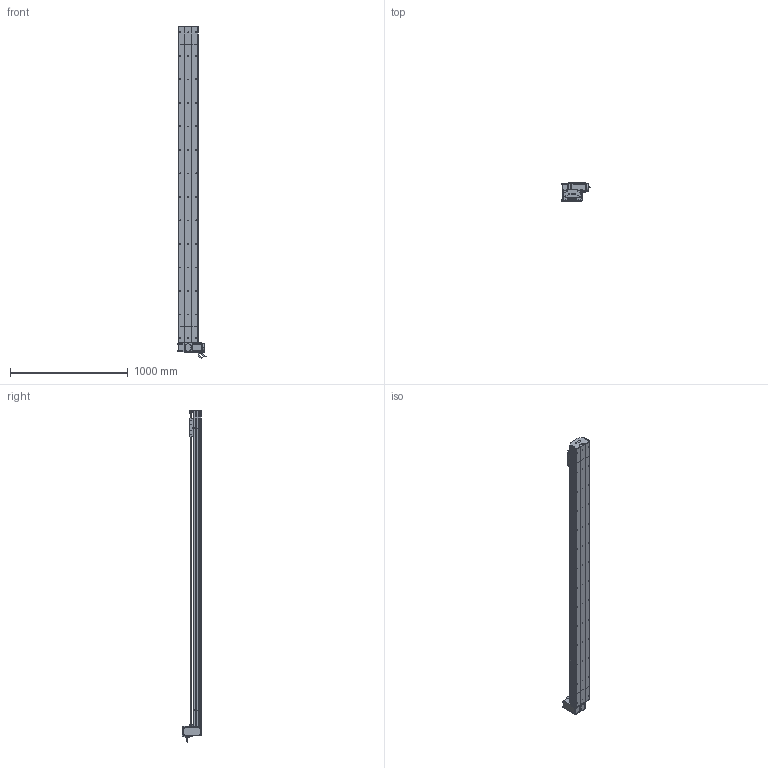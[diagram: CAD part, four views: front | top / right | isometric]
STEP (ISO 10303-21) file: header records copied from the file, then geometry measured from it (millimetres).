
FILE_DESCRIPTION (( 'STEP AP214' ), '1' );
FILE_NAME ('D17 TBH RT S2400.STEP', '2010-06-30T08:41:07', ( 'Christophe Gaillard' ), ( 'SGA' ), 'SwSTEP 2.0', 'SolidWorks 2010', '' );
FILE_SCHEMA (( 'AUTOMOTIVE_DESIGN' ));
Length unit declared in the file: millimetre
Products named in the file (40): couvercle D17B head_Default; plaque de  bout head D17B RT_Default; Arbre+rail head D17B; cache D17_Default; vis M5 L5_Default; poulie head_Default; couroie head D17_Default; Moteur motionking 90BLDC125A-640; avant 90BLDC125A-640; corps 90BLDC125A-640; codeur 90BLDC125-640; course 2400 D17B_Default; Couroie+ rail D17 Course 2400 ; corp D17B 2400_Default; Head RT D17B_Default; couvercle D17B course L2400_Default; corpl head D17 _Default; vis M5 L70_Default; poulie tail_Default; chariot D17S_Default; vis M5 L12_Default; couvercle D17B_Default; Plaque racord D17_Default; Couroie tail D17B_Default; vis M5 L25_Default; guide D17; D17 TBH RT S2400; plaque de  bout tail D17B_Default; vis M5 L16_Default; Chariot D17; Conecteur2_Default; Conecteur_Default; Rail D17B; tete d''axe poulie D17B; corpl tail D17B_Default; Tail D17B_Default; Renvoi RT_Default; cache arbre D17_Default; vis M5 L8 90°_Default; Vis M5 L16-2_Default
Assembly tree (70 placements, depth 4):
  D17 TBH RT S2400
    chariot D17S_Default
      guide D17  x2
      vis M5 L12_Default  x4
      Chariot D17
    Head RT D17B_Default
      Renvoi RT_Default
      plaque de  bout head D17B RT_Default
      corpl head D17 _Default
      vis M5 L12_Default  x8
      vis M5 L70_Default  x4
      Vis M5 L16-2_Default  x4
      vis M5 L5_Default  x4
      cache arbre D17_Default
      cache D17_Default  x2
      poulie head_Default
      vis M5 L25_Default  x2
      Arbre+rail head D17B
      couroie head D17_Default
      vis M5 L16_Default  x2
      couvercle D17B head_Default
      Plaque racord D17_Default
      Moteur motionking 90BLDC125A-640
        avant 90BLDC125A-640
        codeur 90BLDC125-640
        Conecteur2_Default
        corps 90BLDC125A-640
        Conecteur_Default
    course 2400 D17B_Default
      couvercle D17B course L2400_Default
      corp D17B 2400_Default
      Couroie+ rail D17 Course 2400 
    Tail D17B_Default
      couvercle D17B_Default
      corpl tail D17B_Default
      vis M5 L25_Default  x2
      poulie tail_Default
      plaque de  bout tail D17B_Default
      vis M5 L8 90°_Default  x2
      vis M5 L12_Default  x4
      Rail D17B
      Couroie tail D17B_Default
      tete d''axe poulie D17B
Bounding box: 245.2 x 166.15 x 2823.95 mm (x, y, z)
Volume: 16390423.8 mm3; surface area: 4740919.5 mm2
Topology: 94 solids, 94 shells, 2737 faces, 6953 edges, 4474 vertices
Faces by surface type: plane 1607, cylinder 817, bspline 136, cone 88, torus 85, sphere 4
Entity records: 86280 total; most frequent: CARTESIAN_POINT 25381, ORIENTED_EDGE 10678, DIRECTION 10124, EDGE_CURVE 5339, LINE 3502, VECTOR 3502, VERTEX_POINT 3498, AXIS2_PLACEMENT_3D 3311
